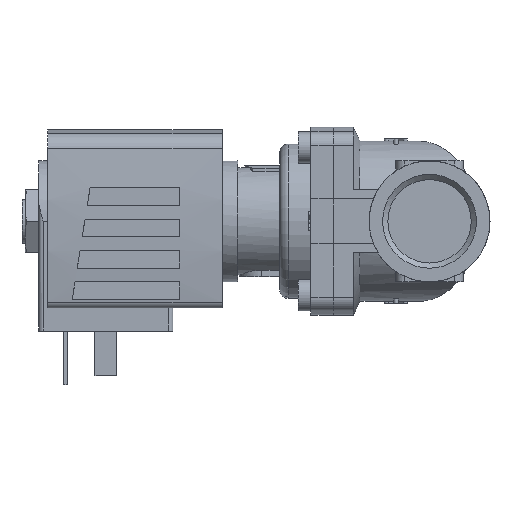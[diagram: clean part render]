
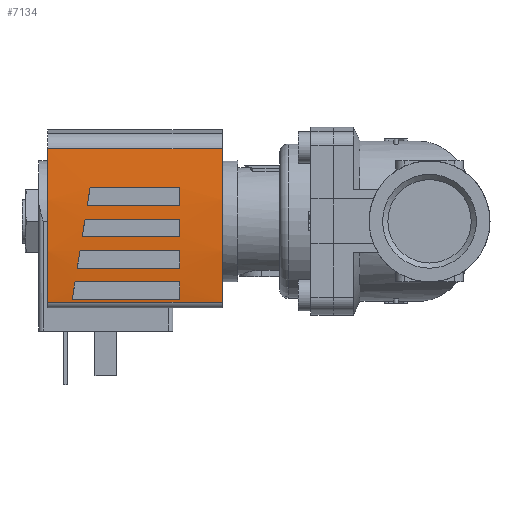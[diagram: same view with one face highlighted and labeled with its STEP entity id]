
A CAD part, left-side view. The second image highlights one B-rep face of the part: STEP entity #7134.
In plain terms, the highlighted cylindrical face has radius 130 mm (diameter 260 mm), a partial arc.
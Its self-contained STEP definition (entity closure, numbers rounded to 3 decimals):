
#88=ELLIPSE('',#7719,131.653,130.);
#89=ELLIPSE('',#7721,131.653,130.);
#90=ELLIPSE('',#7724,131.653,130.);
#91=ELLIPSE('',#7726,131.653,130.);
#244=CYLINDRICAL_SURFACE('',#7718,130.);
#655=LINE('',#11176,#1177);
#657=LINE('',#11196,#1179);
#658=LINE('',#11200,#1180);
#659=LINE('',#11201,#1181);
#660=LINE('',#11206,#1182);
#661=LINE('',#11211,#1183);
#662=LINE('',#11215,#1184);
#663=LINE('',#11219,#1185);
#664=LINE('',#11223,#1186);
#665=LINE('',#11227,#1187);
#1177=VECTOR('',#9188,1000.);
#1179=VECTOR('',#9210,1000.);
#1180=VECTOR('',#9213,1000.);
#1181=VECTOR('',#9214,1000.);
#1182=VECTOR('',#9217,1000.);
#1183=VECTOR('',#9222,1000.);
#1184=VECTOR('',#9225,1000.);
#1185=VECTOR('',#9228,1000.);
#1186=VECTOR('',#9231,1000.);
#1187=VECTOR('',#9234,1000.);
#2617=ORIENTED_EDGE('',*,*,#3682,.F.);
#2618=ORIENTED_EDGE('',*,*,#3683,.F.);
#2619=ORIENTED_EDGE('',*,*,#3684,.F.);
#2620=ORIENTED_EDGE('',*,*,#3685,.F.);
#2621=ORIENTED_EDGE('',*,*,#3686,.F.);
#2622=ORIENTED_EDGE('',*,*,#3687,.F.);
#2623=ORIENTED_EDGE('',*,*,#3688,.F.);
#2624=ORIENTED_EDGE('',*,*,#3689,.F.);
#2625=ORIENTED_EDGE('',*,*,#3690,.T.);
#2626=ORIENTED_EDGE('',*,*,#3691,.F.);
#2627=ORIENTED_EDGE('',*,*,#3676,.F.);
#2628=ORIENTED_EDGE('',*,*,#3673,.T.);
#2629=ORIENTED_EDGE('',*,*,#3692,.F.);
#2630=ORIENTED_EDGE('',*,*,#3693,.F.);
#2631=ORIENTED_EDGE('',*,*,#3694,.F.);
#2632=ORIENTED_EDGE('',*,*,#3695,.F.);
#2633=ORIENTED_EDGE('',*,*,#3696,.F.);
#2634=ORIENTED_EDGE('',*,*,#3697,.F.);
#2635=ORIENTED_EDGE('',*,*,#3698,.F.);
#2636=ORIENTED_EDGE('',*,*,#3699,.F.);
#3673=EDGE_CURVE('',#4309,#4308,#655,.T.);
#3676=EDGE_CURVE('',#4309,#4311,#4599,.T.);
#3682=EDGE_CURVE('',#4315,#4316,#88,.T.);
#3683=EDGE_CURVE('',#4317,#4315,#657,.F.);
#3684=EDGE_CURVE('',#4318,#4317,#4604,.T.);
#3685=EDGE_CURVE('',#4316,#4318,#658,.T.);
#3686=EDGE_CURVE('',#4319,#4320,#659,.T.);
#3687=EDGE_CURVE('',#4321,#4319,#89,.T.);
#3688=EDGE_CURVE('',#4322,#4321,#660,.F.);
#3689=EDGE_CURVE('',#4320,#4322,#4605,.T.);
#3690=EDGE_CURVE('',#4308,#4323,#4606,.T.);
#3691=EDGE_CURVE('',#4311,#4323,#661,.T.);
#3692=EDGE_CURVE('',#4324,#4325,#90,.T.);
#3693=EDGE_CURVE('',#4326,#4324,#662,.F.);
#3694=EDGE_CURVE('',#4327,#4326,#4607,.T.);
#3695=EDGE_CURVE('',#4325,#4327,#663,.T.);
#3696=EDGE_CURVE('',#4328,#4329,#91,.T.);
#3697=EDGE_CURVE('',#4330,#4328,#664,.F.);
#3698=EDGE_CURVE('',#4331,#4330,#4608,.T.);
#3699=EDGE_CURVE('',#4329,#4331,#665,.T.);
#4308=VERTEX_POINT('',#11175);
#4309=VERTEX_POINT('',#11177);
#4311=VERTEX_POINT('',#11183);
#4315=VERTEX_POINT('',#11194);
#4316=VERTEX_POINT('',#11195);
#4317=VERTEX_POINT('',#11197);
#4318=VERTEX_POINT('',#11199);
#4319=VERTEX_POINT('',#11202);
#4320=VERTEX_POINT('',#11203);
#4321=VERTEX_POINT('',#11205);
#4322=VERTEX_POINT('',#11207);
#4323=VERTEX_POINT('',#11210);
#4324=VERTEX_POINT('',#11213);
#4325=VERTEX_POINT('',#11214);
#4326=VERTEX_POINT('',#11216);
#4327=VERTEX_POINT('',#11218);
#4328=VERTEX_POINT('',#11221);
#4329=VERTEX_POINT('',#11222);
#4330=VERTEX_POINT('',#11224);
#4331=VERTEX_POINT('',#11226);
#4599=CIRCLE('',#7713,130.);
#4604=CIRCLE('',#7720,130.);
#4605=CIRCLE('',#7722,130.);
#4606=CIRCLE('',#7723,130.);
#4607=CIRCLE('',#7725,130.);
#4608=CIRCLE('',#7727,130.);
#4920=EDGE_LOOP('',(#2617,#2618,#2619,#2620));
#4921=EDGE_LOOP('',(#2621,#2622,#2623,#2624));
#4922=EDGE_LOOP('',(#2625,#2626,#2627,#2628));
#4923=EDGE_LOOP('',(#2629,#2630,#2631,#2632));
#4924=EDGE_LOOP('',(#2633,#2634,#2635,#2636));
#5310=FACE_BOUND('',#4920,.T.);
#5311=FACE_BOUND('',#4921,.T.);
#5312=FACE_BOUND('',#4922,.T.);
#5313=FACE_BOUND('',#4923,.T.);
#5314=FACE_BOUND('',#4924,.T.);
#7134=ADVANCED_FACE('',(#5310,#5311,#5312,#5313,#5314),#244,.T.);
#7713=AXIS2_PLACEMENT_3D('',#11182,#9195,#9196);
#7718=AXIS2_PLACEMENT_3D('',#11192,#9206,#9207);
#7719=AXIS2_PLACEMENT_3D('',#11193,#9208,#9209);
#7720=AXIS2_PLACEMENT_3D('',#11198,#9211,#9212);
#7721=AXIS2_PLACEMENT_3D('',#11204,#9215,#9216);
#7722=AXIS2_PLACEMENT_3D('',#11208,#9218,#9219);
#7723=AXIS2_PLACEMENT_3D('',#11209,#9220,#9221);
#7724=AXIS2_PLACEMENT_3D('',#11212,#9223,#9224);
#7725=AXIS2_PLACEMENT_3D('',#11217,#9226,#9227);
#7726=AXIS2_PLACEMENT_3D('',#11220,#9229,#9230);
#7727=AXIS2_PLACEMENT_3D('',#11225,#9232,#9233);
#9188=DIRECTION('',(0.,-1.,0.));
#9195=DIRECTION('',(0.,1.,0.));
#9196=DIRECTION('',(1.,0.,0.));
#9206=DIRECTION('',(0.,-1.,0.));
#9207=DIRECTION('',(0.,0.,-1.));
#9208=DIRECTION('',(-0.158,-0.987,0.));
#9209=DIRECTION('',(0.987,-0.158,0.));
#9210=DIRECTION('',(0.,-1.,0.));
#9211=DIRECTION('',(0.,1.,0.));
#9212=DIRECTION('',(0.,0.,1.));
#9213=DIRECTION('',(0.,-1.,0.));
#9214=DIRECTION('',(0.,-1.,0.));
#9215=DIRECTION('',(-0.158,-0.987,0.));
#9216=DIRECTION('',(0.987,-0.158,0.));
#9217=DIRECTION('',(0.,-1.,0.));
#9218=DIRECTION('',(0.,1.,0.));
#9219=DIRECTION('',(0.,0.,1.));
#9220=DIRECTION('',(0.,1.,0.));
#9221=DIRECTION('',(1.,0.,0.));
#9222=DIRECTION('',(0.,-1.,0.));
#9223=DIRECTION('',(-0.158,-0.987,0.));
#9224=DIRECTION('',(0.987,-0.158,0.));
#9225=DIRECTION('',(0.,-1.,0.));
#9226=DIRECTION('',(0.,1.,0.));
#9227=DIRECTION('',(0.,0.,1.));
#9228=DIRECTION('',(0.,-1.,0.));
#9229=DIRECTION('',(-0.158,-0.987,0.));
#9230=DIRECTION('',(0.987,-0.158,0.));
#9231=DIRECTION('',(0.,-1.,0.));
#9232=DIRECTION('',(0.,1.,0.));
#9233=DIRECTION('',(0.,0.,1.));
#9234=DIRECTION('',(0.,-1.,0.));
#11175=CARTESIAN_POINT('',(-18.071,-26.,14.738));
#11176=CARTESIAN_POINT('',(-18.071,13.,14.738));
#11177=CARTESIAN_POINT('',(-18.071,13.,14.738));
#11182=CARTESIAN_POINT('',(0.,13.,-114.));
#11183=CARTESIAN_POINT('',(16.195,13.,14.987));
#11192=CARTESIAN_POINT('',(0.,13.,-114.));
#11193=CARTESIAN_POINT('',(0.,4.7,-114.));
#11194=CARTESIAN_POINT('',(0.5,4.62,15.999));
#11195=CARTESIAN_POINT('',(-3.5,5.26,15.953));
#11196=CARTESIAN_POINT('',(0.5,13.,15.999));
#11197=CARTESIAN_POINT('',(0.5,-16.5,15.999));
#11198=CARTESIAN_POINT('',(0.,-16.5,-114.));
#11199=CARTESIAN_POINT('',(-3.5,-16.5,15.953));
#11200=CARTESIAN_POINT('',(-3.5,13.,15.953));
#11201=CARTESIAN_POINT('',(-17.5,13.,14.817));
#11202=CARTESIAN_POINT('',(-17.5,7.5,14.817));
#11203=CARTESIAN_POINT('',(-17.5,-16.5,14.817));
#11204=CARTESIAN_POINT('',(0.,4.7,-114.));
#11205=CARTESIAN_POINT('',(-13.5,6.86,15.297));
#11206=CARTESIAN_POINT('',(-13.5,13.,15.297));
#11207=CARTESIAN_POINT('',(-13.5,-16.5,15.297));
#11208=CARTESIAN_POINT('',(0.,-16.5,-114.));
#11209=CARTESIAN_POINT('',(0.,-26.,-114.));
#11210=CARTESIAN_POINT('',(16.195,-26.,14.987));
#11211=CARTESIAN_POINT('',(16.195,13.,14.987));
#11212=CARTESIAN_POINT('',(0.,4.7,-114.));
#11213=CARTESIAN_POINT('',(-6.5,5.74,15.837));
#11214=CARTESIAN_POINT('',(-10.5,6.38,15.575));
#11215=CARTESIAN_POINT('',(-6.5,13.,15.837));
#11216=CARTESIAN_POINT('',(-6.5,-16.5,15.837));
#11217=CARTESIAN_POINT('',(0.,-16.5,-114.));
#11218=CARTESIAN_POINT('',(-10.5,-16.5,15.575));
#11219=CARTESIAN_POINT('',(-10.5,13.,15.575));
#11220=CARTESIAN_POINT('',(0.,4.7,-114.));
#11221=CARTESIAN_POINT('',(7.5,3.5,15.783));
#11222=CARTESIAN_POINT('',(3.5,4.14,15.953));
#11223=CARTESIAN_POINT('',(7.5,13.,15.783));
#11224=CARTESIAN_POINT('',(7.5,-16.5,15.783));
#11225=CARTESIAN_POINT('',(0.,-16.5,-114.));
#11226=CARTESIAN_POINT('',(3.5,-16.5,15.953));
#11227=CARTESIAN_POINT('',(3.5,13.,15.953));
